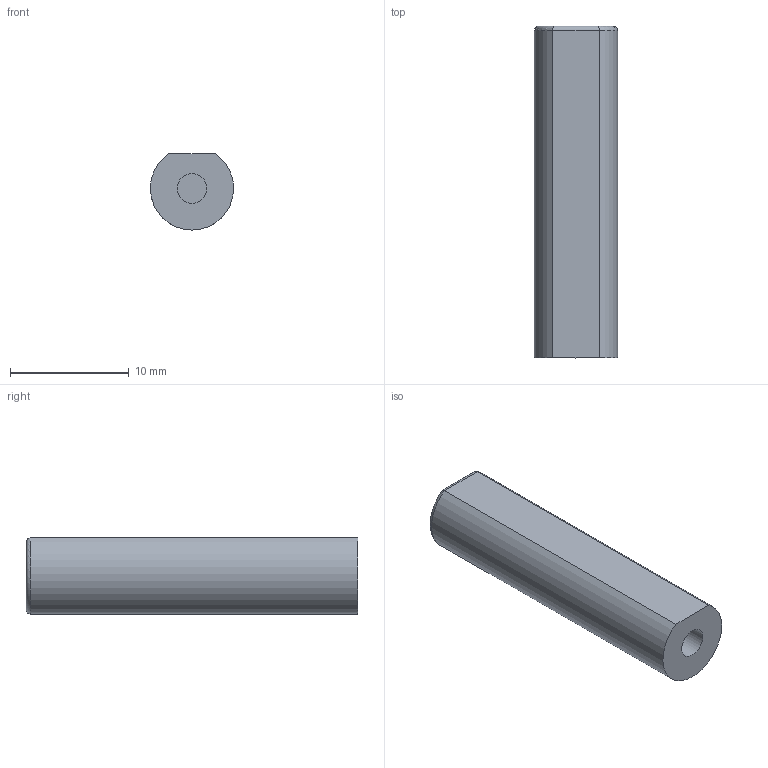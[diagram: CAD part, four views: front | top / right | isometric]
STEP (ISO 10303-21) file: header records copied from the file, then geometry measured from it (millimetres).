
FILE_DESCRIPTION(('Open CASCADE Model'),'2;1');
FILE_NAME('Open CASCADE Shape Model','2026-11-07T04:41:51',('Author'),( 'Open CASCADE'),'Open CASCADE STEP processor 8.0','build123d', 'Unknown');
FILE_SCHEMA(('AUTOMOTIVE_DESIGN { 1 0 10303 214 1 1 1 1 }'));
Length unit declared in the file: millimetre
Products named in the file (2): =>[0:1:1:2]; COMPOUND
Assembly tree (1 placements, depth 2):
  =>[0:1:1:2]
    COMPOUND
Bounding box: 6.99 x 27.92 x 6.4 mm (x, y, z)
Volume: 928 mm3; surface area: 820.4 mm2
Topology: 1 solids, 1 shells, 13 faces, 23 edges, 14 vertices
Faces by surface type: plane 6, cylinder 5, torus 2
Full cylindrical faces by diameter (mm): 2.5 x1
Entity records: 772 total; most frequent: CARTESIAN_POINT 284, DIRECTION 81, ORIENTED_EDGE 46, PCURVE 46, DEFINITIONAL_REPRESENTATION 46, LINE 31, VECTOR 31, B_SPLINE_CURVE_WITH_KNOTS 24
